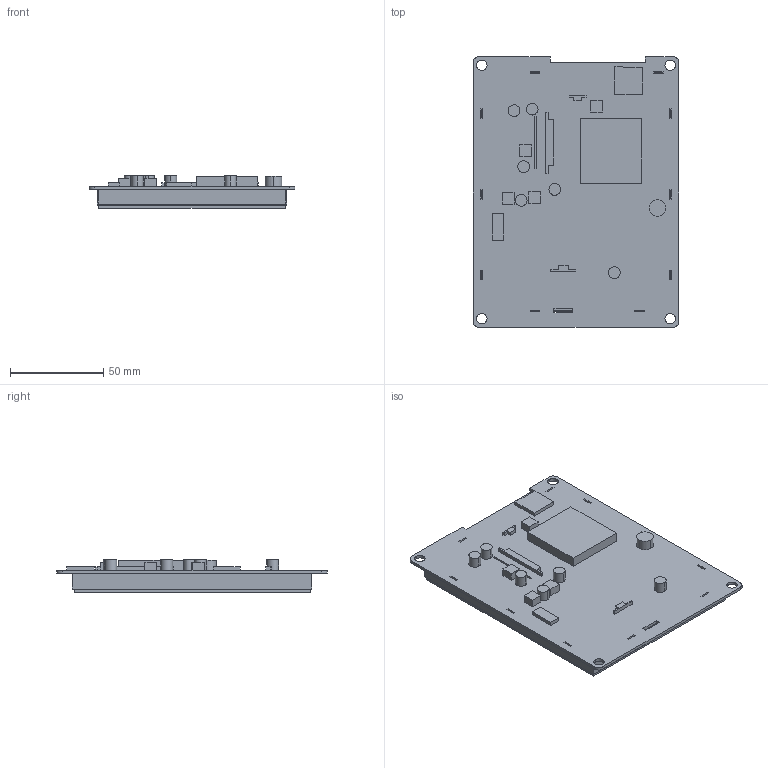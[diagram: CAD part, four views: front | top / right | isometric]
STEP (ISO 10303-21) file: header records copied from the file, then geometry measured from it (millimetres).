
FILE_DESCRIPTION((''),'2;1');
FILE_NAME('PRT0001','2019-08-14T',('Administrator'),(''),'PRO/ENGINEER BY PARAMETRIC TECHNOLOGY CORPORATION, 2011310','PRO/ENGINEER BY PARAMETRIC TECHNOLOGY CORPORATION, 2011310','');
FILE_SCHEMA(('CONFIG_CONTROL_DESIGN','SHAPE_APPEARANCE_LAYERS_GROUPS'));
Length unit declared in the file: millimetre
Products named in the file (1): PRT0001
Bounding box: 110.24 x 144.78 x 17.6 mm (x, y, z)
Surface area: 102877.9 mm2 (no closed solid volume)
Topology: 0 solids, 4 shells, 193 faces, 496 edges, 332 vertices
Faces by surface type: plane 163, cylinder 30
Entity records: 7255 total; most frequent: CARTESIAN_POINT 1018, ORIENTED_EDGE 984, DIRECTION 944, EDGE_CURVE 492, VECTOR 436, LINE 436, VERTEX_POINT 328, AXIS2_PLACEMENT_3D 254
